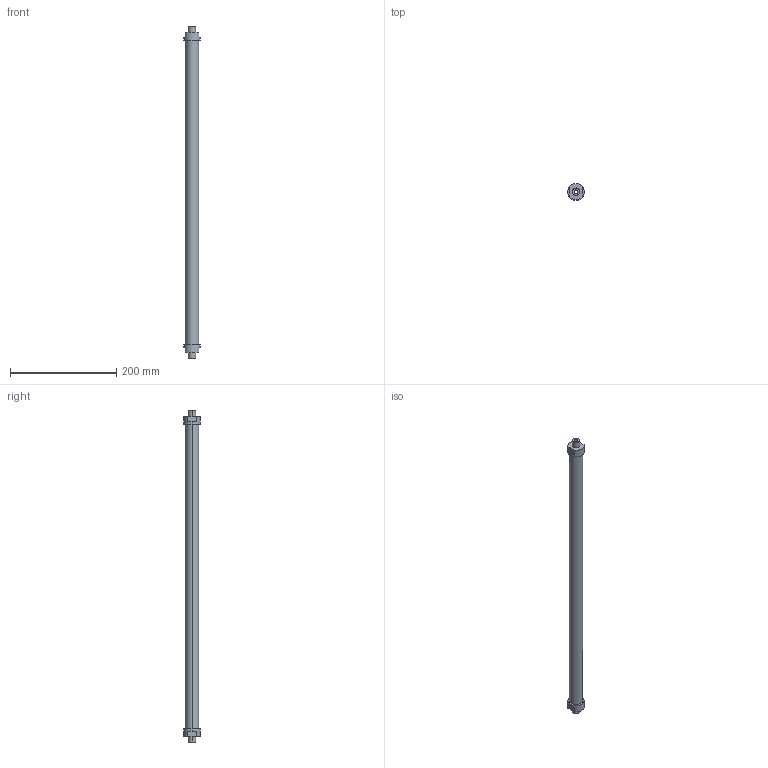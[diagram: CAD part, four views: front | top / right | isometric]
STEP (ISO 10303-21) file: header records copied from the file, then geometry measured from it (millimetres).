
FILE_DESCRIPTION(('STEP AP214'),'1');
FILE_NAME('ETT-R050G614.stp','2015-02-02T13:04:23',(' '),(' '),'Spatial InterOp 3D',' ',' ');
FILE_SCHEMA(('automotive_design'));
Length unit declared in the file: metre
Products named in the file (3): 1; 2; 3
Bounding box: 31 x 31 x 626 mm (x, y, z)
Volume: 288946.6 mm3; surface area: 63225.8 mm2
Topology: 1 solids, 7 shells, 32 faces, 86 edges, 66 vertices
Faces by surface type: cylinder 16, plane 16
Entity records: 1375 total; most frequent: DIRECTION 206, CARTESIAN_POINT 187, ORIENTED_EDGE 148, EDGE_CURVE 86, AXIS2_PLACEMENT_3D 85, VERTEX_POINT 66, CIRCLE 50, EDGE_LOOP 40
